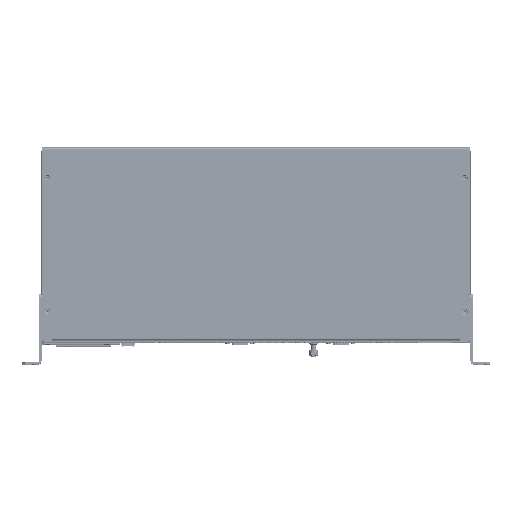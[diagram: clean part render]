
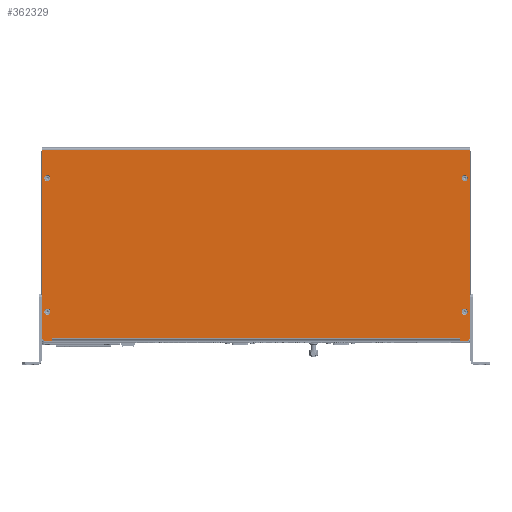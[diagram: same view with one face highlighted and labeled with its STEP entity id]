
A CAD part, top view. The second image highlights one B-rep face of the part: STEP entity #362329.
In plain terms, the highlighted planar face has unit normal (0, 0, 1).
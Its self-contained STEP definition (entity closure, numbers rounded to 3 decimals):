
#13601=LINE('',#523355,#56647);
#13604=LINE('',#523361,#56650);
#13605=LINE('',#523363,#56651);
#13606=LINE('',#523365,#56652);
#13607=LINE('',#523367,#56653);
#13608=LINE('',#523369,#56654);
#13609=LINE('',#523371,#56655);
#13610=LINE('',#523373,#56656);
#13611=LINE('',#523375,#56657);
#13612=LINE('',#523377,#56658);
#13613=LINE('',#523381,#56659);
#13614=LINE('',#523382,#56660);
#56647=VECTOR('',#416337,10.);
#56650=VECTOR('',#416342,10.);
#56651=VECTOR('',#416343,10.);
#56652=VECTOR('',#416344,10.);
#56653=VECTOR('',#416345,10.);
#56654=VECTOR('',#416346,10.);
#56655=VECTOR('',#416347,10.);
#56656=VECTOR('',#416348,10.);
#56657=VECTOR('',#416349,10.);
#56658=VECTOR('',#416350,10.);
#56659=VECTOR('',#416353,10.);
#56660=VECTOR('',#416354,10.);
#97619=PLANE('',#384665);
#113722=FACE_BOUND('',#140526,.T.);
#113723=FACE_BOUND('',#140527,.T.);
#113724=FACE_BOUND('',#140528,.T.);
#113725=FACE_BOUND('',#140529,.T.);
#119077=FACE_OUTER_BOUND('',#140525,.T.);
#140525=EDGE_LOOP('',(#263615,#263616,#263617,#263618,#263619,#263620,#263621,
#263622,#263623,#263624,#263625,#263626,#263627,#263628));
#140526=EDGE_LOOP('',(#263629));
#140527=EDGE_LOOP('',(#263630));
#140528=EDGE_LOOP('',(#263631));
#140529=EDGE_LOOP('',(#263632));
#163627=CIRCLE('',#384662,2.);
#163629=CIRCLE('',#384666,2.);
#163630=CIRCLE('',#384667,3.2);
#163631=CIRCLE('',#384668,3.2);
#163632=CIRCLE('',#384669,3.2);
#163633=CIRCLE('',#384670,3.2);
#172486=VERTEX_POINT('',#523345);
#172487=VERTEX_POINT('',#523346);
#172490=VERTEX_POINT('',#523354);
#172492=VERTEX_POINT('',#523360);
#172493=VERTEX_POINT('',#523362);
#172494=VERTEX_POINT('',#523364);
#172495=VERTEX_POINT('',#523366);
#172496=VERTEX_POINT('',#523368);
#172497=VERTEX_POINT('',#523370);
#172498=VERTEX_POINT('',#523372);
#172499=VERTEX_POINT('',#523374);
#172500=VERTEX_POINT('',#523376);
#172501=VERTEX_POINT('',#523378);
#172502=VERTEX_POINT('',#523380);
#172503=VERTEX_POINT('',#523383);
#172504=VERTEX_POINT('',#523385);
#172505=VERTEX_POINT('',#523387);
#172506=VERTEX_POINT('',#523389);
#207577=EDGE_CURVE('',#172486,#172487,#163627,.T.);
#207581=EDGE_CURVE('',#172487,#172490,#13601,.T.);
#207584=EDGE_CURVE('',#172492,#172486,#13604,.T.);
#207585=EDGE_CURVE('',#172492,#172493,#13605,.T.);
#207586=EDGE_CURVE('',#172493,#172494,#13606,.T.);
#207587=EDGE_CURVE('',#172494,#172495,#13607,.T.);
#207588=EDGE_CURVE('',#172495,#172496,#13608,.T.);
#207589=EDGE_CURVE('',#172496,#172497,#13609,.T.);
#207590=EDGE_CURVE('',#172497,#172498,#13610,.T.);
#207591=EDGE_CURVE('',#172498,#172499,#13611,.T.);
#207592=EDGE_CURVE('',#172500,#172499,#13612,.T.);
#207593=EDGE_CURVE('',#172501,#172500,#163629,.T.);
#207594=EDGE_CURVE('',#172502,#172501,#13613,.T.);
#207595=EDGE_CURVE('',#172502,#172490,#13614,.T.);
#207596=EDGE_CURVE('',#172503,#172503,#163630,.T.);
#207597=EDGE_CURVE('',#172504,#172504,#163631,.T.);
#207598=EDGE_CURVE('',#172505,#172505,#163632,.T.);
#207599=EDGE_CURVE('',#172506,#172506,#163633,.T.);
#263615=ORIENTED_EDGE('',*,*,#207577,.F.);
#263616=ORIENTED_EDGE('',*,*,#207584,.F.);
#263617=ORIENTED_EDGE('',*,*,#207585,.T.);
#263618=ORIENTED_EDGE('',*,*,#207586,.T.);
#263619=ORIENTED_EDGE('',*,*,#207587,.T.);
#263620=ORIENTED_EDGE('',*,*,#207588,.T.);
#263621=ORIENTED_EDGE('',*,*,#207589,.T.);
#263622=ORIENTED_EDGE('',*,*,#207590,.T.);
#263623=ORIENTED_EDGE('',*,*,#207591,.T.);
#263624=ORIENTED_EDGE('',*,*,#207592,.F.);
#263625=ORIENTED_EDGE('',*,*,#207593,.F.);
#263626=ORIENTED_EDGE('',*,*,#207594,.F.);
#263627=ORIENTED_EDGE('',*,*,#207595,.T.);
#263628=ORIENTED_EDGE('',*,*,#207581,.F.);
#263629=ORIENTED_EDGE('',*,*,#207596,.T.);
#263630=ORIENTED_EDGE('',*,*,#207597,.T.);
#263631=ORIENTED_EDGE('',*,*,#207598,.T.);
#263632=ORIENTED_EDGE('',*,*,#207599,.T.);
#362329=ADVANCED_FACE('',(#119077,#113722,#113723,#113724,#113725),#97619,
 .T.);
#384662=AXIS2_PLACEMENT_3D('',#523347,#416329,#416330);
#384665=AXIS2_PLACEMENT_3D('',#523359,#416340,#416341);
#384666=AXIS2_PLACEMENT_3D('',#523379,#416351,#416352);
#384667=AXIS2_PLACEMENT_3D('',#523384,#416355,#416356);
#384668=AXIS2_PLACEMENT_3D('',#523386,#416357,#416358);
#384669=AXIS2_PLACEMENT_3D('',#523388,#416359,#416360);
#384670=AXIS2_PLACEMENT_3D('',#523390,#416361,#416362);
#416329=DIRECTION('center_axis',(0.,0.,-1.));
#416330=DIRECTION('ref_axis',(-0.707,-0.707,0.));
#416337=DIRECTION('',(0.,1.,0.));
#416340=DIRECTION('center_axis',(0.,0.,1.));
#416341=DIRECTION('ref_axis',(1.,0.,0.));
#416342=DIRECTION('',(-1.,0.,0.));
#416343=DIRECTION('',(0.,1.,0.));
#416344=DIRECTION('',(1.,0.,0.));
#416345=DIRECTION('',(0.,-1.,0.));
#416346=DIRECTION('',(1.,0.,0.));
#416347=DIRECTION('',(0.,1.,0.));
#416348=DIRECTION('',(1.,0.,0.));
#416349=DIRECTION('',(0.,-1.,0.));
#416350=DIRECTION('',(-1.,0.,0.));
#416351=DIRECTION('center_axis',(0.,0.,-1.));
#416352=DIRECTION('ref_axis',(0.707,-0.707,0.));
#416353=DIRECTION('',(0.,-1.,0.));
#416354=DIRECTION('',(-1.,0.,0.));
#416355=DIRECTION('center_axis',(0.,0.,-1.));
#416356=DIRECTION('ref_axis',(1.,0.,0.));
#416357=DIRECTION('center_axis',(0.,0.,-1.));
#416358=DIRECTION('ref_axis',(1.,0.,0.));
#416359=DIRECTION('center_axis',(0.,0.,-1.));
#416360=DIRECTION('ref_axis',(1.,0.,0.));
#416361=DIRECTION('center_axis',(0.,0.,-1.));
#416362=DIRECTION('ref_axis',(1.,0.,0.));
#523345=CARTESIAN_POINT('',(-217.,-99.,1.5));
#523346=CARTESIAN_POINT('',(-219.,-97.,1.5));
#523347=CARTESIAN_POINT('Origin',(-217.,-97.,1.5));
#523354=CARTESIAN_POINT('',(-219.,96.7,1.5));
#523355=CARTESIAN_POINT('',(-219.,99.,1.5));
#523359=CARTESIAN_POINT('Origin',(0.,0.,
1.5));
#523360=CARTESIAN_POINT('',(-209.01,-99.,1.5));
#523361=CARTESIAN_POINT('',(-219.,-99.,1.5));
#523362=CARTESIAN_POINT('',(-209.01,-96.69,1.5));
#523363=CARTESIAN_POINT('',(-209.01,-49.5,1.5));
#523364=CARTESIAN_POINT('',(-209.,-96.69,1.5));
#523365=CARTESIAN_POINT('',(-104.505,-96.69,1.5));
#523366=CARTESIAN_POINT('',(-209.,-96.7,1.5));
#523367=CARTESIAN_POINT('',(-209.,-48.345,1.5));
#523368=CARTESIAN_POINT('',(209.,-96.7,1.5));
#523369=CARTESIAN_POINT('',(-104.5,-96.7,1.5));
#523370=CARTESIAN_POINT('',(209.,-96.69,1.5));
#523371=CARTESIAN_POINT('',(209.,-49.5,1.5));
#523372=CARTESIAN_POINT('',(209.01,-96.69,1.5));
#523373=CARTESIAN_POINT('',(104.5,-96.69,1.5));
#523374=CARTESIAN_POINT('',(209.01,-99.,1.5));
#523375=CARTESIAN_POINT('',(209.01,-48.345,1.5));
#523376=CARTESIAN_POINT('',(217.,-99.,1.5));
#523377=CARTESIAN_POINT('',(-219.,-99.,1.5));
#523378=CARTESIAN_POINT('',(219.,-97.,1.5));
#523379=CARTESIAN_POINT('Origin',(217.,-97.,1.5));
#523380=CARTESIAN_POINT('',(219.,96.7,1.5));
#523381=CARTESIAN_POINT('',(219.,-99.,1.5));
#523382=CARTESIAN_POINT('',(109.5,96.7,1.5));
#523383=CARTESIAN_POINT('',(217.2,67.5,1.5));
#523384=CARTESIAN_POINT('Origin',(214.,67.5,1.5));
#523385=CARTESIAN_POINT('',(-210.8,67.5,1.5));
#523386=CARTESIAN_POINT('Origin',(-214.,67.5,1.5));
#523387=CARTESIAN_POINT('',(-210.8,-69.5,1.5));
#523388=CARTESIAN_POINT('Origin',(-214.,-69.5,1.5));
#523389=CARTESIAN_POINT('',(217.2,-69.5,1.5));
#523390=CARTESIAN_POINT('Origin',(214.,-69.5,1.5));
